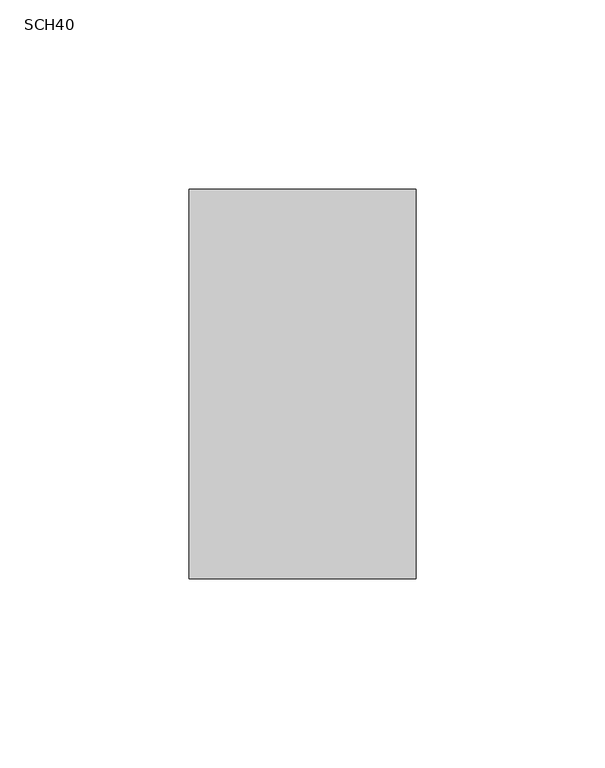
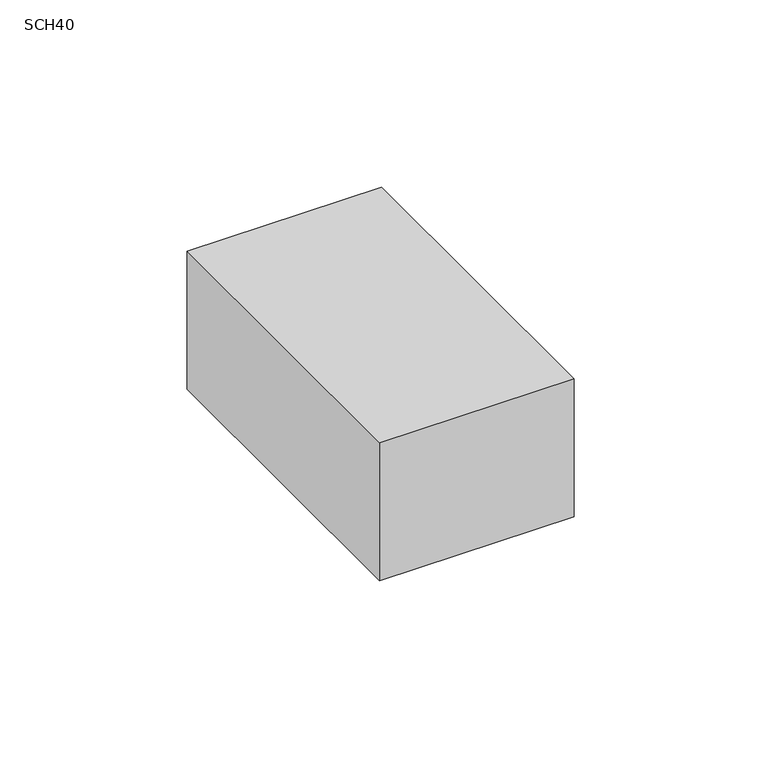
"""IFC4 building model written with IfcOpenShell, lengths in millimetres: cable carrier fitting geometry, PavcoWavin_ConduitFittings_CajaSencilla_Tee : SCH40."""

from ifc_helpers import new_model, si_unit, frame, origin, place, context, project, spatial, polyline, outline, extrude, source, transform, mapped, element, save


def sch40_9a32e9d7(model_context):
    return source(origin(), model_context, "Body", "SweptSolid", [
        extrude(outline(polyline([(30.0, 23.5), (30.0, -79.5), (-30.0, -79.5), (-30.0, 23.5), (30.0, 23.5)])), frame((0.0, 0.0, -22.5), z_axis=(0.0, 0.0, 1.0), x_axis=(1.0, 0.0, 0.0)), (0.0, 0.0, 1.0), 45.0),
    ])


if __name__ == "__main__":
    model = new_model("IFC4")
    model_context = context("Model", 3, world=origin())
    ifc_project = project(units=[si_unit("LENGTHUNIT", "METRE", prefix="MILLI")], contexts=[model_context])
    site = spatial("IfcSite", under=ifc_project)
    building = spatial("IfcBuilding", under=site)
    placement = place(None, origin())
    sch40_shape = sch40_9a32e9d7(model_context)
    element("IfcCableCarrierFitting", 1, ObjectType="PavcoWavin_ConduitFittings_CajaSencilla_Tee : SCH40", at=placement, inside=building, context=model_context, shape_type="MappedRepresentation", body=[
        mapped(sch40_shape, transform((0.0, 0.0, 0.0), x_axis=(1.0, 0.0, 0.0), y_axis=(0.0, 1.0, 0.0), z_axis=(0.0, 0.0, 1.0))),
    ])
    save(model, "model.ifc")
